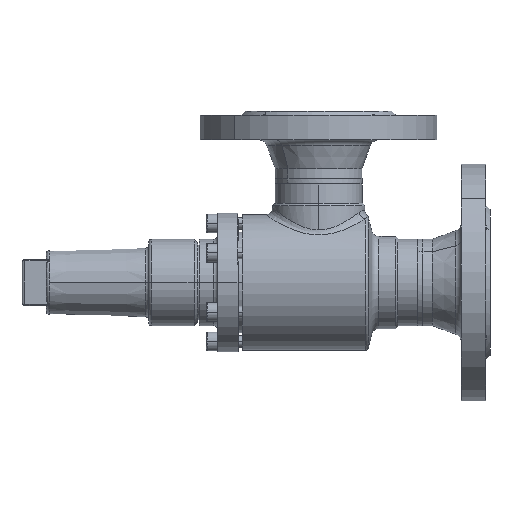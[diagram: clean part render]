
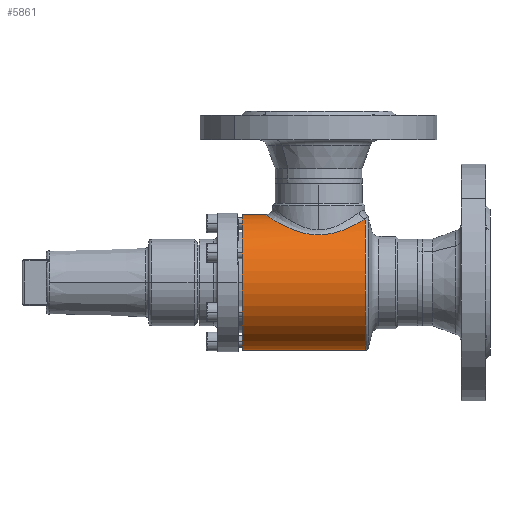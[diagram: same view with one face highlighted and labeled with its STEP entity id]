
A CAD part, left-side view. The second image highlights one B-rep face of the part: STEP entity #5861.
In plain terms, the highlighted cylindrical face has radius 47 mm (diameter 94 mm), a partial arc.
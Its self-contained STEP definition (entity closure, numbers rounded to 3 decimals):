
#16525 = CIRCLE ( 'NONE', #16526, 47. ) ;
#16526 = AXIS2_PLACEMENT_3D ( 'NONE', #16527, #16528, #16529 ) ;
#16527 = CARTESIAN_POINT ( 'NONE',  ( 0., -85.446, 0. ) ) ;
#16528 = DIRECTION ( 'NONE',  ( 0., 1., 0. ) ) ;
#16529 = DIRECTION ( 'NONE',  ( 0., 0., -1. ) ) ;
#16550 = EDGE_CURVE ( 'NONE', #17639, #11838, #10969, .T. ) ;
#17639 = VERTEX_POINT ( 'NONE', #11962 ) ;
#1599 = EDGE_CURVE ( 'NONE', #11838, #15416, #13992, .T. ) ;
#1964 = ORIENTED_EDGE ( 'NONE', *, *, #1599, .F. ) ;
#2458 = ORIENTED_EDGE ( 'NONE', *, *, #9093, .T. ) ;
#2973 = EDGE_CURVE ( 'NONE', #3855, #8905, #15033, .T. ) ;
#3340 = ORIENTED_EDGE ( 'NONE', *, *, #2973, .T. ) ;
#3855 = VERTEX_POINT ( 'NONE', #16004 ) ;
#4083 = EDGE_CURVE ( 'NONE', #17639, #3855, #16525, .T. ) ;
#4451 = ORIENTED_EDGE ( 'NONE', *, *, #4083, .T. ) ;
#4968 = ORIENTED_EDGE ( 'NONE', *, *, #16550, .F. ) ;
#5655 = EDGE_LOOP ( 'NONE', ( #4968, #4451, #3340, #2458, #1964 ) ) ;
#5861 = ADVANCED_FACE ( 'NONE', ( #9890 ), #9891, .T. ) ;
#6457 = CARTESIAN_POINT ( 'NONE',  ( 0., -16., 47. ) ) ;
#6622 = LINE ( 'NONE', #6623, #6624 ) ;
#6623 = CARTESIAN_POINT ( 'NONE',  ( 0., -91., 47. ) ) ;
#6624 = VECTOR ( 'NONE', #6625, 1000. ) ;
#6625 = DIRECTION ( 'NONE',  ( 0., 1., 0. ) ) ;
#8905 = VERTEX_POINT ( 'NONE', #6457 ) ;
#9093 = EDGE_CURVE ( 'NONE', #8905, #15416, #6622, .T. ) ;
#9890 = FACE_OUTER_BOUND ( 'NONE', #5655, .T. ) ;
#9891 = CYLINDRICAL_SURFACE ( 'NONE', #9892, 47. ) ;
#9892 = AXIS2_PLACEMENT_3D ( 'NONE', #9893, #9894, #9895 ) ;
#9893 = CARTESIAN_POINT ( 'NONE',  ( 0., -91., 0. ) ) ;
#9894 = DIRECTION ( 'NONE',  ( 0., 1., 0. ) ) ;
#9895 = DIRECTION ( 'NONE',  ( 0., 0., 1. ) ) ;
#9942 = CARTESIAN_POINT ( 'NONE',  ( 0., 0., 47. ) ) ;
#10969 = LINE ( 'NONE', #10970, #10971 ) ;
#10970 = CARTESIAN_POINT ( 'NONE',  ( 0., -91., -47. ) ) ;
#10971 = VECTOR ( 'NONE', #10972, 1000. ) ;
#10972 = DIRECTION ( 'NONE',  ( 0., 1., 0. ) ) ;
#11838 = VERTEX_POINT ( 'NONE', #14403 ) ;
#11962 = CARTESIAN_POINT ( 'NONE',  ( 0., -85.446, -47. ) ) ;
#13992 = CIRCLE ( 'NONE', #13993, 47. ) ;
#13993 = AXIS2_PLACEMENT_3D ( 'NONE', #13994, #13995, #13996 ) ;
#13994 = CARTESIAN_POINT ( 'NONE',  ( 0., 0., 0. ) ) ;
#13995 = DIRECTION ( 'NONE',  ( 0., 1., 0. ) ) ;
#13996 = DIRECTION ( 'NONE',  ( 0., 0., 1. ) ) ;
#14403 = CARTESIAN_POINT ( 'NONE',  ( 0., 0., -47. ) ) ;
#15033 = B_SPLINE_CURVE_WITH_KNOTS ( 'NONE', 3,
 ( #15034, #15035, #15036, #15037, #15038, #15039, #15040, #15041, #15042, #15043, #15044, #15045, #15046, #15047, #15051, #15052, #15053, #15054, #15055, #15056, #15057, #15058, #15059, #15060, #15061, #15062, #15063, #15064, #15065, #15066, #15067, #15068, #15069, #15070, #15071, #15072, #15073, #15074, #15075, #15076, #15077, #15078, #15079, #15080, #15081, #15082, #15084, #15085, #15086, #15087, #15088, #15089, #15090, #15091, #15092, #15093, #15094, #15095, #15096, #15097, #15098, #15099 ),
 .UNSPECIFIED., .F., .F.,
 ( 4, 2, 2, 2, 2, 2, 2, 2, 2, 2, 2, 2, 2, 2, 2, 2, 2, 2, 2, 2, 2, 2, 2, 2, 2, 2, 2, 2, 2, 2, 4 ),
 ( 0.017, 0.023, 0.026, 0.029, 0.035, 0.039, 0.04, 0.042, 0.048, 0.051, 0.052, 0.054, 0.06, 0.063, 0.066, 0.069, 0.072, 0.078, 0.081, 0.083, 0.084, 0.09, 0.093, 0.095, 0.096, 0.103, 0.106, 0.107, 0.109, 0.112, 0.115 ),
 .UNSPECIFIED. ) ;
#15034 = CARTESIAN_POINT ( 'NONE',  ( -16.073, -85.446, 44.166 ) ) ;
#15035 = CARTESIAN_POINT ( 'NONE',  ( -17.749, -84.43, 43.556 ) ) ;
#15036 = CARTESIAN_POINT ( 'NONE',  ( -19.293, -83.29, 42.887 ) ) ;
#15037 = CARTESIAN_POINT ( 'NONE',  ( -21.444, -81.41, 41.831 ) ) ;
#15038 = CARTESIAN_POINT ( 'NONE',  ( -22.133, -80.755, 41.469 ) ) ;
#15039 = CARTESIAN_POINT ( 'NONE',  ( -23.459, -79.389, 40.734 ) ) ;
#15040 = CARTESIAN_POINT ( 'NONE',  ( -24.096, -78.676, 40.359 ) ) ;
#15041 = CARTESIAN_POINT ( 'NONE',  ( -25.907, -76.48, 39.24 ) ) ;
#15042 = CARTESIAN_POINT ( 'NONE',  ( -26.989, -74.936, 38.497 ) ) ;
#15043 = CARTESIAN_POINT ( 'NONE',  ( -28.44, -72.491, 37.424 ) ) ;
#15044 = CARTESIAN_POINT ( 'NONE',  ( -28.894, -71.655, 37.073 ) ) ;
#15045 = CARTESIAN_POINT ( 'NONE',  ( -29.533, -70.366, 36.563 ) ) ;
#15046 = CARTESIAN_POINT ( 'NONE',  ( -29.739, -69.93, 36.396 ) ) ;
#15047 = CARTESIAN_POINT ( 'NONE',  ( -30.137, -69.047, 36.067 ) ) ;
#15051 = CARTESIAN_POINT ( 'NONE',  ( -30.328, -68.599, 35.906 ) ) ;
#15052 = CARTESIAN_POINT ( 'NONE',  ( -31.243, -66.344, 35.126 ) ) ;
#15053 = CARTESIAN_POINT ( 'NONE',  ( -31.842, -64.482, 34.576 ) ) ;
#15054 = CARTESIAN_POINT ( 'NONE',  ( -32.541, -61.591, 33.914 ) ) ;
#15055 = CARTESIAN_POINT ( 'NONE',  ( -32.74, -60.61, 33.721 ) ) ;
#15056 = CARTESIAN_POINT ( 'NONE',  ( -32.986, -59.111, 33.48 ) ) ;
#15057 = CARTESIAN_POINT ( 'NONE',  ( -33.059, -58.608, 33.408 ) ) ;
#15058 = CARTESIAN_POINT ( 'NONE',  ( -33.186, -57.603, 33.282 ) ) ;
#15059 = CARTESIAN_POINT ( 'NONE',  ( -33.239, -57.1, 33.229 ) ) ;
#15060 = CARTESIAN_POINT ( 'NONE',  ( -33.462, -54.583, 33.006 ) ) ;
#15061 = CARTESIAN_POINT ( 'NONE',  ( -33.49, -52.562, 32.976 ) ) ;
#15062 = CARTESIAN_POINT ( 'NONE',  ( -33.307, -49.52, 33.161 ) ) ;
#15063 = CARTESIAN_POINT ( 'NONE',  ( -33.207, -48.498, 33.262 ) ) ;
#15064 = CARTESIAN_POINT ( 'NONE',  ( -32.933, -46.49, 33.532 ) ) ;
#15065 = CARTESIAN_POINT ( 'NONE',  ( -32.761, -45.501, 33.702 ) ) ;
#15066 = CARTESIAN_POINT ( 'NONE',  ( -32.346, -43.55, 34.1 ) ) ;
#15067 = CARTESIAN_POINT ( 'NONE',  ( -32.103, -42.587, 34.33 ) ) ;
#15068 = CARTESIAN_POINT ( 'NONE',  ( -31.549, -40.688, 34.839 ) ) ;
#15069 = CARTESIAN_POINT ( 'NONE',  ( -31.237, -39.749, 35.121 ) ) ;
#15070 = CARTESIAN_POINT ( 'NONE',  ( -30.211, -37.009, 36.016 ) ) ;
#15071 = CARTESIAN_POINT ( 'NONE',  ( -29.406, -35.272, 36.683 ) ) ;
#15072 = CARTESIAN_POINT ( 'NONE',  ( -28.021, -32.781, 37.738 ) ) ;
#15073 = CARTESIAN_POINT ( 'NONE',  ( -27.529, -31.97, 38.099 ) ) ;
#15074 = CARTESIAN_POINT ( 'NONE',  ( -26.744, -30.781, 38.65 ) ) ;
#15075 = CARTESIAN_POINT ( 'NONE',  ( -26.475, -30.389, 38.835 ) ) ;
#15076 = CARTESIAN_POINT ( 'NONE',  ( -25.92, -29.615, 39.208 ) ) ;
#15077 = CARTESIAN_POINT ( 'NONE',  ( -25.634, -29.233, 39.396 ) ) ;
#15078 = CARTESIAN_POINT ( 'NONE',  ( -24.175, -27.357, 40.33 ) ) ;
#15079 = CARTESIAN_POINT ( 'NONE',  ( -22.902, -25.964, 41.072 ) ) ;
#15080 = CARTESIAN_POINT ( 'NONE',  ( -20.822, -24.029, 42.143 ) ) ;
#15081 = CARTESIAN_POINT ( 'NONE',  ( -20.099, -23.411, 42.494 ) ) ;
#15082 = CARTESIAN_POINT ( 'NONE',  ( -18.969, -22.523, 43.004 ) ) ;
#15084 = CARTESIAN_POINT ( 'NONE',  ( -18.584, -22.235, 43.172 ) ) ;
#15085 = CARTESIAN_POINT ( 'NONE',  ( -17.798, -21.671, 43.502 ) ) ;
#15086 = CARTESIAN_POINT ( 'NONE',  ( -17.396, -21.396, 43.664 ) ) ;
#15087 = CARTESIAN_POINT ( 'NONE',  ( -15.356, -20.064, 44.455 ) ) ;
#15088 = CARTESIAN_POINT ( 'NONE',  ( -13.635, -19.147, 45.018 ) ) ;
#15089 = CARTESIAN_POINT ( 'NONE',  ( -10.906, -18.006, 45.727 ) ) ;
#15090 = CARTESIAN_POINT ( 'NONE',  ( -9.972, -17.666, 45.94 ) ) ;
#15091 = CARTESIAN_POINT ( 'NONE',  ( -8.53, -17.219, 46.222 ) ) ;
#15092 = CARTESIAN_POINT ( 'NONE',  ( -8.041, -17.081, 46.31 ) ) ;
#15093 = CARTESIAN_POINT ( 'NONE',  ( -7.058, -16.829, 46.47 ) ) ;
#15094 = CARTESIAN_POINT ( 'NONE',  ( -6.563, -16.715, 46.542 ) ) ;
#15095 = CARTESIAN_POINT ( 'NONE',  ( -5.066, -16.41, 46.737 ) ) ;
#15096 = CARTESIAN_POINT ( 'NONE',  ( -4.049, -16.255, 46.836 ) ) ;
#15097 = CARTESIAN_POINT ( 'NONE',  ( -2.024, -16.051, 46.967 ) ) ;
#15098 = CARTESIAN_POINT ( 'NONE',  ( -1.011, -16., 47. ) ) ;
#15099 = CARTESIAN_POINT ( 'NONE',  ( 0., -16., 47. ) ) ;
#15416 = VERTEX_POINT ( 'NONE', #9942 ) ;
#16004 = CARTESIAN_POINT ( 'NONE',  ( -16.073, -85.446, 44.166 ) ) ;
